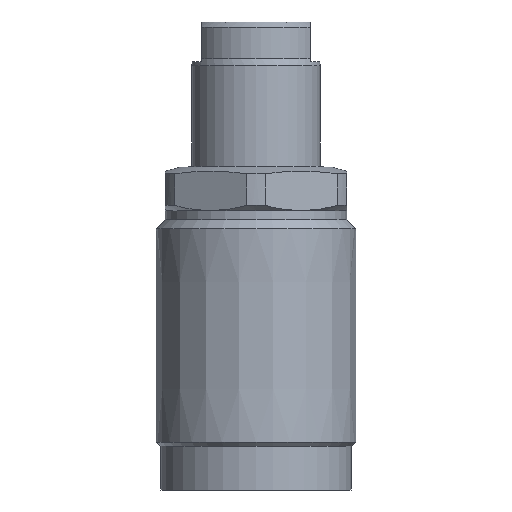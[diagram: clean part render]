
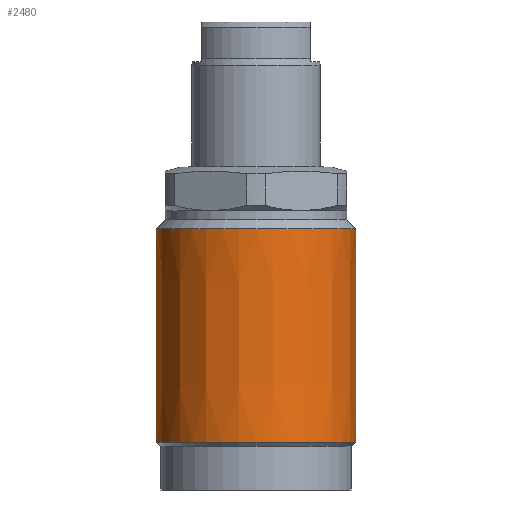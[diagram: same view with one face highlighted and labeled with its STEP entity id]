
A CAD part, front view. The second image highlights one B-rep face of the part: STEP entity #2480.
In plain terms, the highlighted conical face has half-angle 0 degrees and reference radius 27.5 mm.
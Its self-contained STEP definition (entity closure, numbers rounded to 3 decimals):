
#420 = EDGE_CURVE ( 'NONE', #1891, #1892, #826, .T. ) ;
#422 = EDGE_CURVE ( 'NONE', #1893, #1895, #833, .T. ) ;
#511 = CARTESIAN_POINT ( 'NONE',  ( 0., 0., -75.8 ) ) ;
#512 = DIRECTION ( 'NONE',  ( 0., 0., 1. ) ) ;
#513 = DIRECTION ( 'NONE',  ( 1., 0., 0. ) ) ;
#514 = CARTESIAN_POINT ( 'NONE',  ( 0., 0., -17. ) ) ;
#515 = DIRECTION ( 'NONE',  ( 0., 0., 1. ) ) ;
#516 = DIRECTION ( 'NONE',  ( 1., 0., 0. ) ) ;
#826 = LINE ( 'NONE', #832, #1074 ) ;
#830 = CARTESIAN_POINT ( 'NONE',  ( -27.5, 0., -75.8 ) ) ;
#832 = CARTESIAN_POINT ( 'NONE',  ( 27.5, 0., -75.8 ) ) ;
#833 = LINE ( 'NONE', #830, #1079 ) ;
#834 = DIRECTION ( 'NONE',  ( 0., 0., -1. ) ) ;
#841 = DIRECTION ( 'NONE',  ( 0., 0., -1. ) ) ;
#881 = CARTESIAN_POINT ( 'NONE',  ( 27.5, 0., -17. ) ) ;
#882 = CARTESIAN_POINT ( 'NONE',  ( 27.5, 0., -75.8 ) ) ;
#883 = CARTESIAN_POINT ( 'NONE',  ( -27.5, 0., -17. ) ) ;
#885 = CARTESIAN_POINT ( 'NONE',  ( -27.5, 0., -75.8 ) ) ;
#1074 = VECTOR ( 'NONE', #834, 1000. ) ;
#1079 = VECTOR ( 'NONE', #841, 1000. ) ;
#1134 = CONICAL_SURFACE ( 'NONE', #1135, 27.5, 0. ) ;
#1135 = AXIS2_PLACEMENT_3D ( 'NONE', #1987, #1985, #1982 ) ;
#1308 = CIRCLE ( 'NONE', #1311, 27.5 ) ;
#1310 = CIRCLE ( 'NONE', #1313, 27.5 ) ;
#1311 = AXIS2_PLACEMENT_3D ( 'NONE', #511, #512, #513 ) ;
#1313 = AXIS2_PLACEMENT_3D ( 'NONE', #514, #515, #516 ) ;
#1779 = EDGE_LOOP ( 'NONE', ( #2382, #2381, #2380, #2379 ) ) ;
#1891 = VERTEX_POINT ( 'NONE', #881 ) ;
#1892 = VERTEX_POINT ( 'NONE', #882 ) ;
#1893 = VERTEX_POINT ( 'NONE', #883 ) ;
#1895 = VERTEX_POINT ( 'NONE', #885 ) ;
#1982 = DIRECTION ( 'NONE',  ( -1., 0., 0. ) ) ;
#1984 = FACE_OUTER_BOUND ( 'NONE', #1779, .T. ) ;
#1985 = DIRECTION ( 'NONE',  ( 0., 0., -1. ) ) ;
#1987 = CARTESIAN_POINT ( 'NONE',  ( 0., 0., -75.8 ) ) ;
#2379 = ORIENTED_EDGE ( 'NONE', *, *, #2698, .T. ) ;
#2380 = ORIENTED_EDGE ( 'NONE', *, *, #422, .T. ) ;
#2381 = ORIENTED_EDGE ( 'NONE', *, *, #2699, .F. ) ;
#2382 = ORIENTED_EDGE ( 'NONE', *, *, #420, .F. ) ;
#2480 = ADVANCED_FACE ( 'NONE', ( #1984 ), #1134, .T. ) ;
#2698 = EDGE_CURVE ( 'NONE', #1895, #1892, #1308, .T. ) ;
#2699 = EDGE_CURVE ( 'NONE', #1893, #1891, #1310, .T. ) ;
